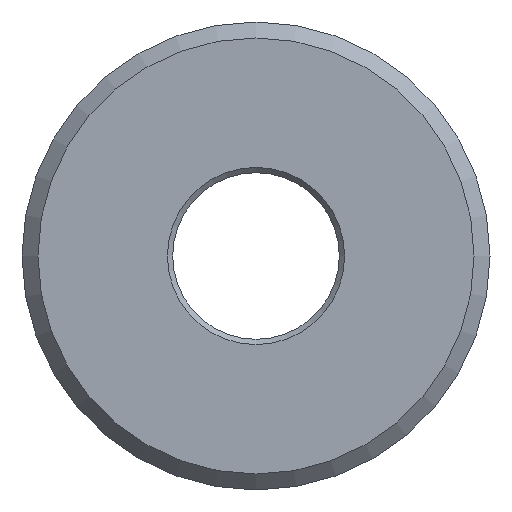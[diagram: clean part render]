
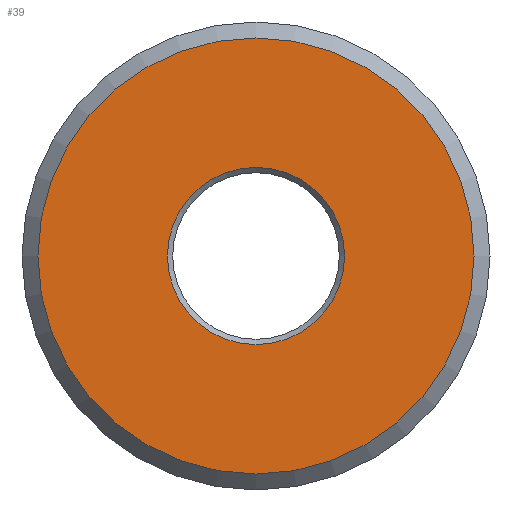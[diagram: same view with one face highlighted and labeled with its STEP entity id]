
A CAD part, left-side view. The second image highlights one B-rep face of the part: STEP entity #39.
In plain terms, the highlighted planar face has unit normal (-1, 0, 0).
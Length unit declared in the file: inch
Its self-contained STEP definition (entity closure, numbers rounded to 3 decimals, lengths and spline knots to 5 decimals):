
#39 = ADVANCED_FACE( '', ( #84, #85 ), #86, .F. );
#84 = FACE_OUTER_BOUND( '', #143, .T. );
#85 = FACE_BOUND( '', #144, .T. );
#86 = PLANE( '', #145 );
#143 = EDGE_LOOP( '', ( #198 ) );
#144 = EDGE_LOOP( '', ( #199 ) );
#145 = AXIS2_PLACEMENT_3D( '', #200, #201, #202 );
#198 = ORIENTED_EDGE( '', *, *, #273, .F. );
#199 = ORIENTED_EDGE( '', *, *, #274, .T. );
#200 = CARTESIAN_POINT( '', ( 0., 0., 0. ) );
#201 = DIRECTION( '', ( 1., 0., 0. ) );
#202 = DIRECTION( '', ( 0., 0., -1. ) );
#273 = EDGE_CURVE( '', #301, #301, #302, .T. );
#274 = EDGE_CURVE( '', #303, #303, #304, .T. );
#301 = VERTEX_POINT( '', #340 );
#302 = CIRCLE( '', #341, 0.20508 );
#303 = VERTEX_POINT( '', #342 );
#304 = CIRCLE( '', #343, 0.08335 );
#340 = CARTESIAN_POINT( '', ( 0., 0., -0.20508 ) );
#341 = AXIS2_PLACEMENT_3D( '', #379, #380, #381 );
#342 = CARTESIAN_POINT( '', ( 0., 0., -0.08335 ) );
#343 = AXIS2_PLACEMENT_3D( '', #382, #383, #384 );
#379 = CARTESIAN_POINT( '', ( 0., 0., 0. ) );
#380 = DIRECTION( '', ( 1., 0., 0. ) );
#381 = DIRECTION( '', ( 0., 0., -1. ) );
#382 = CARTESIAN_POINT( '', ( 0., 0., 0. ) );
#383 = DIRECTION( '', ( 1., 0., 0. ) );
#384 = DIRECTION( '', ( 0., 0., -1. ) );
